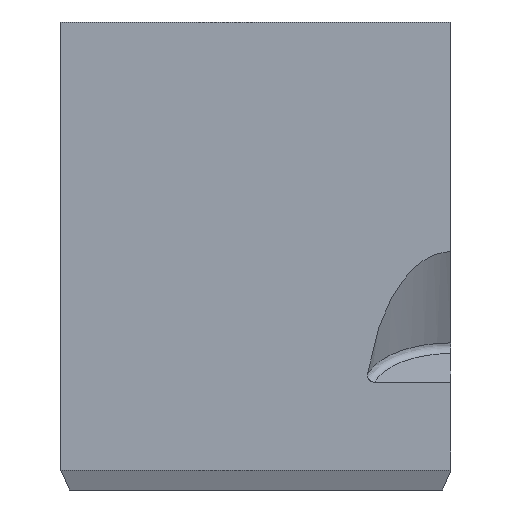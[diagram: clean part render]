
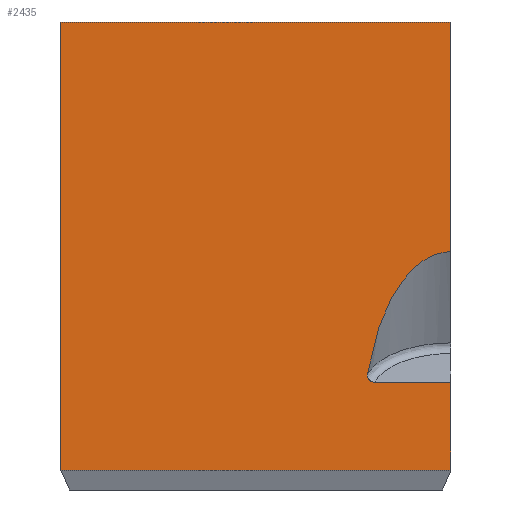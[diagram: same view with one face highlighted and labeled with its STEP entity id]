
A CAD part, left-side view. The second image highlights one B-rep face of the part: STEP entity #2435.
In plain terms, the highlighted planar face has unit normal (-1, 0, 0).
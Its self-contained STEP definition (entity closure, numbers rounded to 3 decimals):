
#229=DIRECTION('',(0.,-1.,0.));
#230=VECTOR('',#229,10.);
#231=CARTESIAN_POINT('',(-2.5,1.5,1.));
#232=LINE('',#231,#230);
#722=DIRECTION('',(0.,0.,1.));
#723=VECTOR('',#722,5.892);
#724=CARTESIAN_POINT('',(-2.5,-8.5,-4.892));
#725=LINE('',#724,#723);
#726=CARTESIAN_POINT('',(-2.5,-6.359,-8.007));
#727=CARTESIAN_POINT('',(-2.5,-6.423,-7.612));
#728=CARTESIAN_POINT('',(-2.5,-6.6,-6.882));
#729=CARTESIAN_POINT('',(-2.5,-6.937,-6.106));
#730=CARTESIAN_POINT('',(-2.5,-7.289,-5.58));
#731=CARTESIAN_POINT('',(-2.5,-7.602,-5.244));
#732=CARTESIAN_POINT('',(-2.5,-7.917,-5.028));
#733=CARTESIAN_POINT('',(-2.5,-8.222,-4.918));
#734=CARTESIAN_POINT('',(-2.5,-8.4,-4.892));
#735=CARTESIAN_POINT('',(-2.5,-8.5,-4.892));
#737=DIRECTION('',(0.,0.,1.));
#738=VECTOR('',#737,2.255);
#739=CARTESIAN_POINT('',(-2.5,-8.5,-10.492));
#740=LINE('',#739,#738);
#741=DIRECTION('',(0.,-1.,0.));
#742=VECTOR('',#741,10.);
#743=CARTESIAN_POINT('',(-2.5,1.5,-10.492));
#744=LINE('',#743,#742);
#745=DIRECTION('',(0.,0.,1.));
#746=VECTOR('',#745,11.492);
#747=CARTESIAN_POINT('',(-2.5,1.5,-10.492));
#748=LINE('',#747,#746);
#796=CARTESIAN_POINT('',(-2.5,-6.359,-8.007));
#797=CARTESIAN_POINT('',(-2.5,-6.356,-8.028));
#798=CARTESIAN_POINT('',(-2.5,-6.355,-8.069));
#799=CARTESIAN_POINT('',(-2.5,-6.368,-8.127));
#800=CARTESIAN_POINT('',(-2.5,-6.397,-8.176));
#801=CARTESIAN_POINT('',(-2.5,-6.434,-8.21));
#802=CARTESIAN_POINT('',(-2.5,-6.478,-8.232));
#803=CARTESIAN_POINT('',(-2.5,-6.514,-8.238));
#804=CARTESIAN_POINT('',(-2.5,-6.533,-8.238));
#811=DIRECTION('',(0.,-1.,0.));
#812=VECTOR('',#811,1.967);
#813=CARTESIAN_POINT('',(-2.5,-6.533,-8.238));
#814=LINE('',#813,#812);
#858=CARTESIAN_POINT('',(-2.5,1.5,-10.492));
#859=VERTEX_POINT('',#858);
#860=CARTESIAN_POINT('',(-2.5,-8.5,-10.492));
#861=VERTEX_POINT('',#860);
#880=CARTESIAN_POINT('',(-2.5,-8.5,-8.238));
#881=VERTEX_POINT('',#880);
#886=CARTESIAN_POINT('',(-2.5,-8.5,-4.892));
#887=VERTEX_POINT('',#886);
#888=CARTESIAN_POINT('',(-2.5,-8.5,1.));
#889=VERTEX_POINT('',#888);
#897=CARTESIAN_POINT('',(-2.5,1.5,1.));
#898=VERTEX_POINT('',#897);
#917=VERTEX_POINT('',#726);
#918=VERTEX_POINT('',#804);
#2416=CARTESIAN_POINT('',(-2.5,1.5,-11.));
#2417=DIRECTION('',(-1.,0.,0.));
#2418=DIRECTION('',(0.,-1.,0.));
#2419=AXIS2_PLACEMENT_3D('',#2416,#2417,#2418);
#2420=PLANE('',#2419);
#2422=ORIENTED_EDGE('',*,*,#2421,.T.);
#2423=ORIENTED_EDGE('',*,*,#1221,.T.);
#2424=ORIENTED_EDGE('',*,*,#1184,.F.);
#2426=ORIENTED_EDGE('',*,*,#2425,.F.);
#2428=ORIENTED_EDGE('',*,*,#2427,.T.);
#2430=ORIENTED_EDGE('',*,*,#2429,.T.);
#2431=ORIENTED_EDGE('',*,*,#1176,.F.);
#2432=ORIENTED_EDGE('',*,*,#1108,.F.);
#2433=EDGE_LOOP('',(#2422,#2423,#2424,#2426,#2428,#2430,#2431,#2432));
#2434=FACE_OUTER_BOUND('',#2433,.F.);
#2435=ADVANCED_FACE('',(#2434),#2420,.T.);
#736=B_SPLINE_CURVE_WITH_KNOTS('',3,(#726,#727,#728,#729,#730,#731,#732,#733,
#734,#735),.UNSPECIFIED.,.F.,.F.,(4,1,1,1,1,1,1,4),(0.,0.25,0.5,0.625,
0.75,0.875,0.938,1.),.UNSPECIFIED.);
#805=B_SPLINE_CURVE_WITH_KNOTS('',3,(#796,#797,#798,#799,#800,#801,#802,#803,
#804),.UNSPECIFIED.,.F.,.F.,(4,1,1,1,1,1,4),(0.,0.167,
0.333,0.5,0.667,0.833,1.),
.UNSPECIFIED.);
#1108=EDGE_CURVE('',#859,#861,#744,.T.);
#1176=EDGE_CURVE('',#861,#881,#740,.T.);
#1184=EDGE_CURVE('',#887,#889,#725,.T.);
#1221=EDGE_CURVE('',#898,#889,#232,.T.);
#2421=EDGE_CURVE('',#859,#898,#748,.T.);
#2425=EDGE_CURVE('',#917,#887,#736,.T.);
#2427=EDGE_CURVE('',#917,#918,#805,.T.);
#2429=EDGE_CURVE('',#918,#881,#814,.T.);
